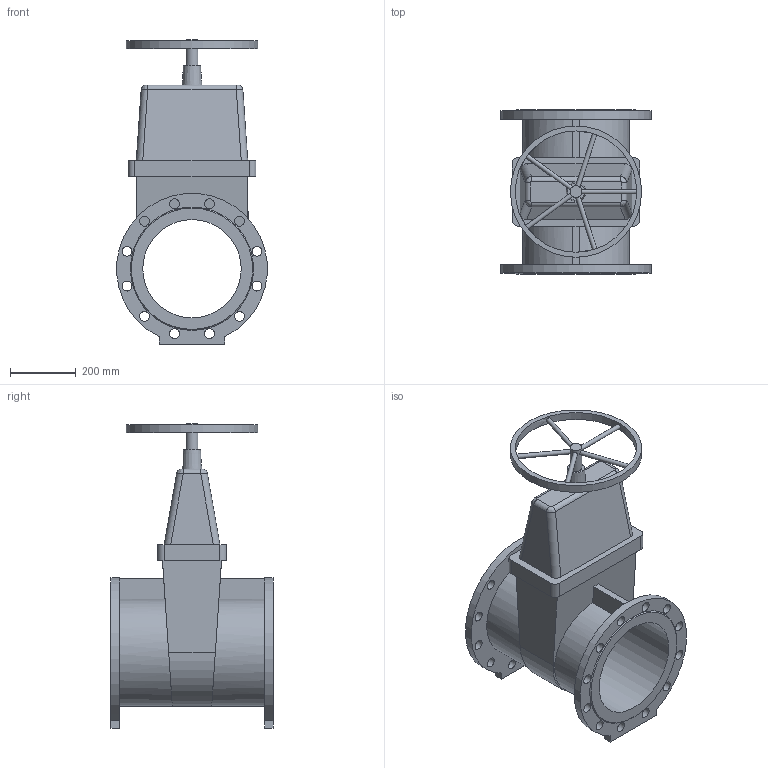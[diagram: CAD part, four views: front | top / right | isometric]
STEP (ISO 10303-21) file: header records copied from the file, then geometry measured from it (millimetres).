
FILE_DESCRIPTION(('STEP AP203'), '1');
FILE_NAME('Çàäâèæêà 47GV DN300 PN10_PN16_L500 ñ ìàõîâèêîì', '', ('UNSPECIFIED'), ('UNSPECIFIED'), 'ASCON STEP Converter 1.6', 'ASCON Math Kernel', '');
FILE_SCHEMA(('CONFIG_CONTROL_DESIGN'));
Length unit declared in the file: millimetre
Bounding box: 458.56 x 500 x 928 mm (x, y, z)
Volume: 34429660.6 mm3; surface area: 2020867.3 mm2
Topology: 1 solids, 1 shells, 113 faces, 293 edges, 191 vertices
Faces by surface type: cylinder 58, plane 48, bspline 4, cone 3
Full cylindrical faces by diameter (mm): 14 x5, 30 x24, 36 x1, 300 x1, 370 x1, 400 x1
Entity records: 5708 total; most frequent: CARTESIAN_POINT 2060, DIRECTION 536, ORIENTED_EDGE 500, EDGE_CURVE 250, EDGE_LOOP 222, AXIS2_PLACEMENT_3D 208, VERTEX_POINT 188, FACE_BOUND 151
